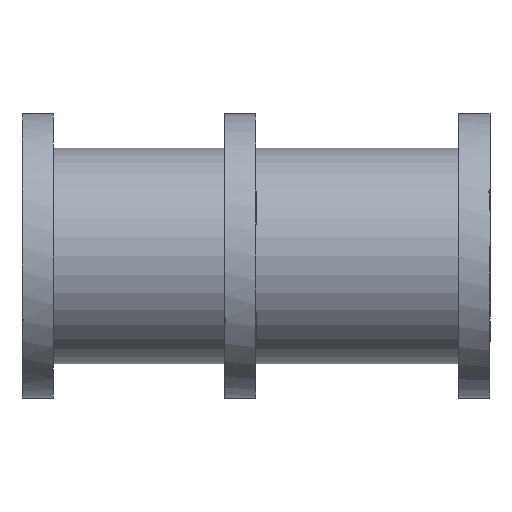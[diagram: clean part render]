
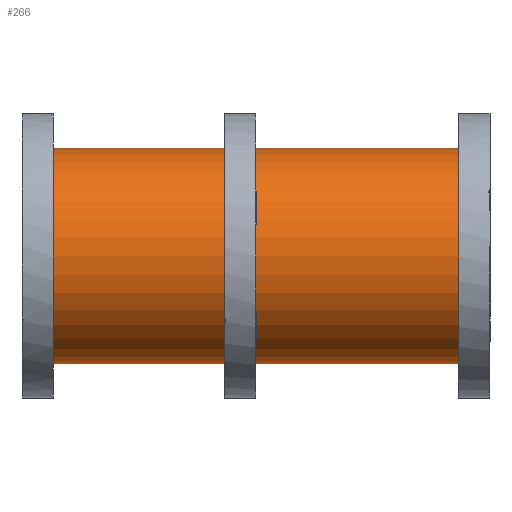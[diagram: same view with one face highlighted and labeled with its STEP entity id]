
A CAD part, front view. The second image highlights one B-rep face of the part: STEP entity #266.
In plain terms, the highlighted cylindrical face has radius 77 mm (diameter 154 mm), a full revolution.
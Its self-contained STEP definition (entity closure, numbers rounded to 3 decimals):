
#266 = ADVANCED_FACE( '', ( #477, #478 ), #479, .T. );
#477 = FACE_OUTER_BOUND( '', #763, .T. );
#478 = FACE_OUTER_BOUND( '', #764, .T. );
#479 = CYLINDRICAL_SURFACE( '', #765, 77. );
#763 = EDGE_LOOP( '', ( #1135 ) );
#764 = EDGE_LOOP( '', ( #1136 ) );
#765 = AXIS2_PLACEMENT_3D( '', #1137, #1138, #1139 );
#1135 = ORIENTED_EDGE( '', *, *, #1451, .T. );
#1136 = ORIENTED_EDGE( '', *, *, #1452, .F. );
#1137 = CARTESIAN_POINT( '', ( 157.5, 0., 0. ) );
#1138 = DIRECTION( '', ( 1., 0., 0. ) );
#1139 = DIRECTION( '', ( 0., 0., 1. ) );
#1451 = EDGE_CURVE( '', #1649, #1649, #1650, .T. );
#1452 = EDGE_CURVE( '', #1651, #1651, #1652, .T. );
#1649 = VERTEX_POINT( '', #1953 );
#1650 = CIRCLE( '', #1954, 77. );
#1651 = VERTEX_POINT( '', #1955 );
#1652 = CIRCLE( '', #1956, 77. );
#1953 = CARTESIAN_POINT( '', ( 157.5, 77., 0. ) );
#1954 = AXIS2_PLACEMENT_3D( '', #2299, #2300, #2301 );
#1955 = CARTESIAN_POINT( '', ( -157.5, 77., 0. ) );
#1956 = AXIS2_PLACEMENT_3D( '', #2302, #2303, #2304 );
#2299 = CARTESIAN_POINT( '', ( 157.5, 0., 0. ) );
#2300 = DIRECTION( '', ( -1., 0., 0. ) );
#2301 = DIRECTION( '', ( 0., 1., 0. ) );
#2302 = CARTESIAN_POINT( '', ( -157.5, 0., 0. ) );
#2303 = DIRECTION( '', ( -1., 0., 0. ) );
#2304 = DIRECTION( '', ( 0., 1., 0. ) );
